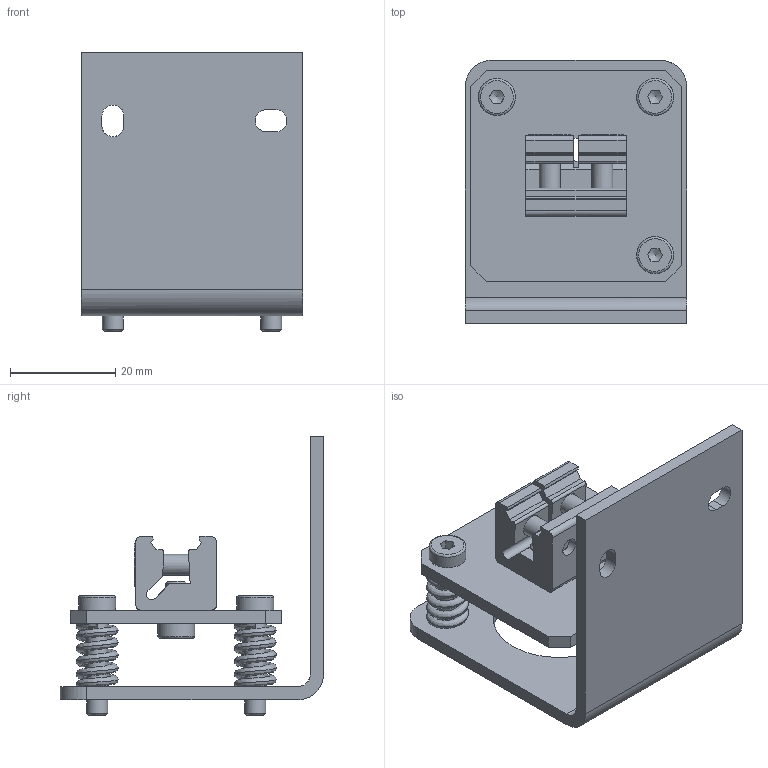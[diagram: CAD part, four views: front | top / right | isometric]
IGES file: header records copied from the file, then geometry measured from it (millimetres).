
Global section: file name: 153-01126_MA F55; native system: Autodesk Inventor 2016; preprocessor: unknown; author: ss; date: 20180227.093721; units: millimetre
Bounding box: 42 x 50 x 53 mm (x, y, z)
Volume: 16486.3 mm3; surface area: 16207.4 mm2
Topology: 1 solids, 3 shells, 215 faces, 1227 edges, 1054 vertices
Faces by surface type: bspline 215
